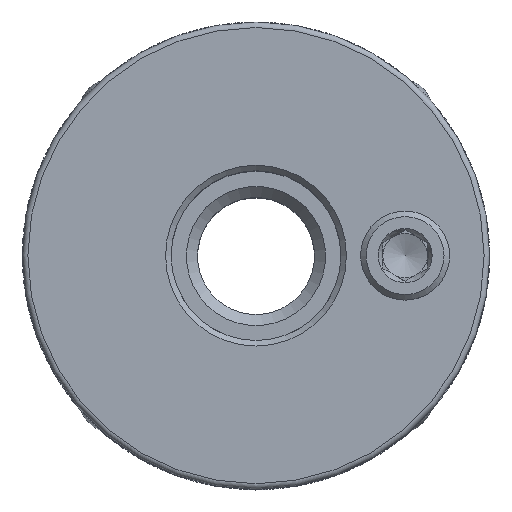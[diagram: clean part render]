
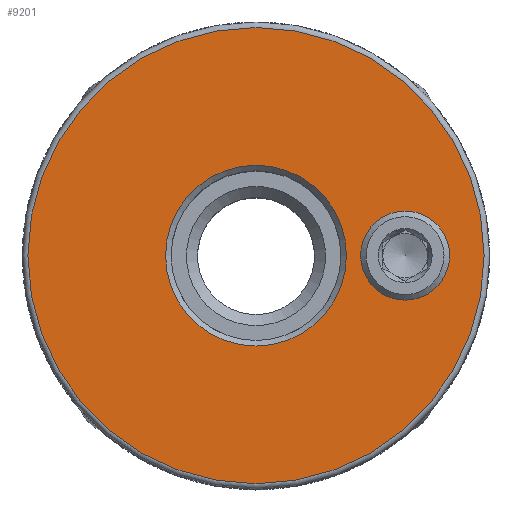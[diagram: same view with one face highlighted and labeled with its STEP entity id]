
A CAD part, top view. The second image highlights one B-rep face of the part: STEP entity #9201.
In plain terms, the highlighted planar face has unit normal (0, 0, 1).
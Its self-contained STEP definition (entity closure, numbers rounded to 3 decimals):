
#4556=ORIENTED_EDGE('',*,*,#5965,.T.);
#4557=ORIENTED_EDGE('',*,*,#5966,.T.);
#4558=ORIENTED_EDGE('',*,*,#5967,.F.);
#5965=EDGE_CURVE('',#6876,#6876,#7238,.T.);
#5966=EDGE_CURVE('',#6877,#6877,#7239,.F.);
#5967=EDGE_CURVE('',#6878,#6878,#7240,.T.);
#6876=VERTEX_POINT('',#15750);
#6877=VERTEX_POINT('',#15752);
#6878=VERTEX_POINT('',#15754);
#7238=CIRCLE('',#10229,16.25);
#7239=CIRCLE('',#10230,41.);
#7240=CIRCLE('',#10231,8.);
#7758=EDGE_LOOP('',(#4556));
#7759=EDGE_LOOP('',(#4557));
#7760=EDGE_LOOP('',(#4558));
#8356=FACE_BOUND('',#7758,.T.);
#8357=FACE_BOUND('',#7759,.T.);
#8358=FACE_BOUND('',#7760,.T.);
#8758=PLANE('',#10228);
#9201=ADVANCED_FACE('',(#8356,#8357,#8358),#8758,.F.);
#10228=AXIS2_PLACEMENT_3D('',#15748,#12680,#12681);
#10229=AXIS2_PLACEMENT_3D('',#15749,#12682,#12683);
#10230=AXIS2_PLACEMENT_3D('',#15751,#12684,#12685);
#10231=AXIS2_PLACEMENT_3D('',#15753,#12686,#12687);
#12680=DIRECTION('',(0.,0.,-1.));
#12681=DIRECTION('',(-1.,0.,0.));
#12682=DIRECTION('',(0.,0.,-1.));
#12683=DIRECTION('',(-1.,0.,0.));
#12684=DIRECTION('',(0.,0.,-1.));
#12685=DIRECTION('',(-1.,0.,0.));
#12686=DIRECTION('',(0.,0.,1.));
#12687=DIRECTION('',(1.,0.,0.));
#15748=CARTESIAN_POINT('',(42.,0.,42.));
#15749=CARTESIAN_POINT('',(0.,0.,42.));
#15750=CARTESIAN_POINT('',(-16.25,0.,42.));
#15751=CARTESIAN_POINT('',(0.,0.,42.));
#15752=CARTESIAN_POINT('',(-41.,0.,42.));
#15753=CARTESIAN_POINT('',(26.8,0.,42.));
#15754=CARTESIAN_POINT('',(34.8,0.,42.));
